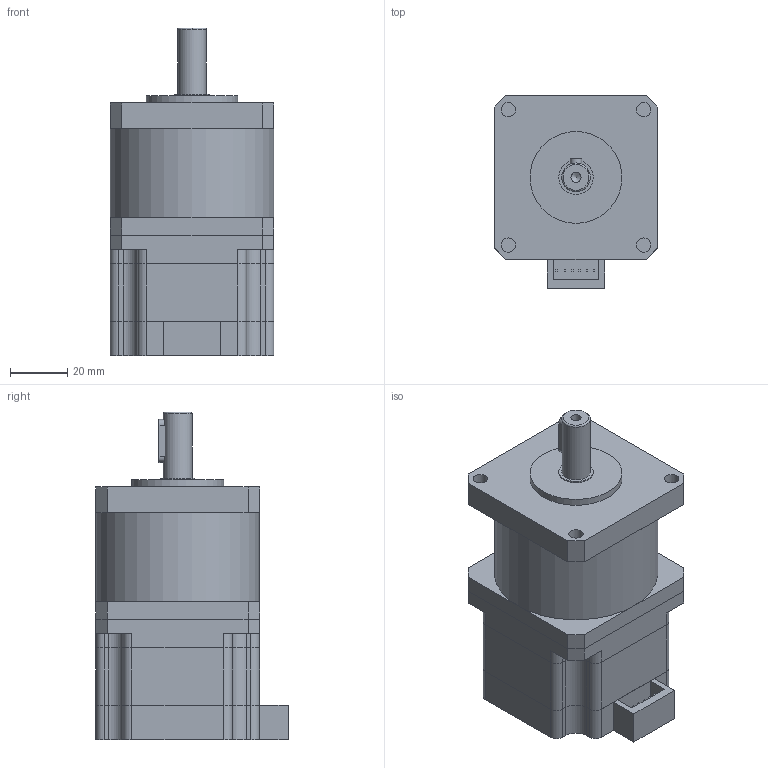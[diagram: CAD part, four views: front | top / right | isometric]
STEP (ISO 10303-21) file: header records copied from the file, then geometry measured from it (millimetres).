
FILE_DESCRIPTION(/* description */ (''),/* implementation_level */ '2;1');
FILE_NAME(/* name */ 'T57PG005-D42-0442.stp',/* time_stamp */ '2018-08-29T16:12:38+08:00',/* author */ (''),/* organization */ (''),/* preprocessor_version */ 'ST-DEVELOPER v11',/* originating_system */ 'SIEMENS UGS NX 6.0',/* authorisation */ '');
FILE_SCHEMA (('CONFIG_CONTROL_DESIGN'));
Length unit declared in the file: millimetre
Products named in the file (1): T57PG005-D42-0442
Bounding box: 57 x 67 x 114 mm (x, y, z)
Volume: 255436.6 mm3; surface area: 46202.8 mm2
Topology: 5 solids, 5 shells, 171 faces, 443 edges, 292 vertices
Faces by surface type: plane 122, cylinder 47, cone 1, torus 1
Full cylindrical faces by diameter (mm): 3.5 x1, 5 x4, 10 x1, 12 x1, 32 x1, 57 x1
Entity records: 5214 total; most frequent: CARTESIAN_POINT 891, DIRECTION 874, ORIENTED_EDGE 858, EDGE_CURVE 429, LINE 328, VECTOR 328, VERTEX_POINT 290, AXIS2_PLACEMENT_3D 273
